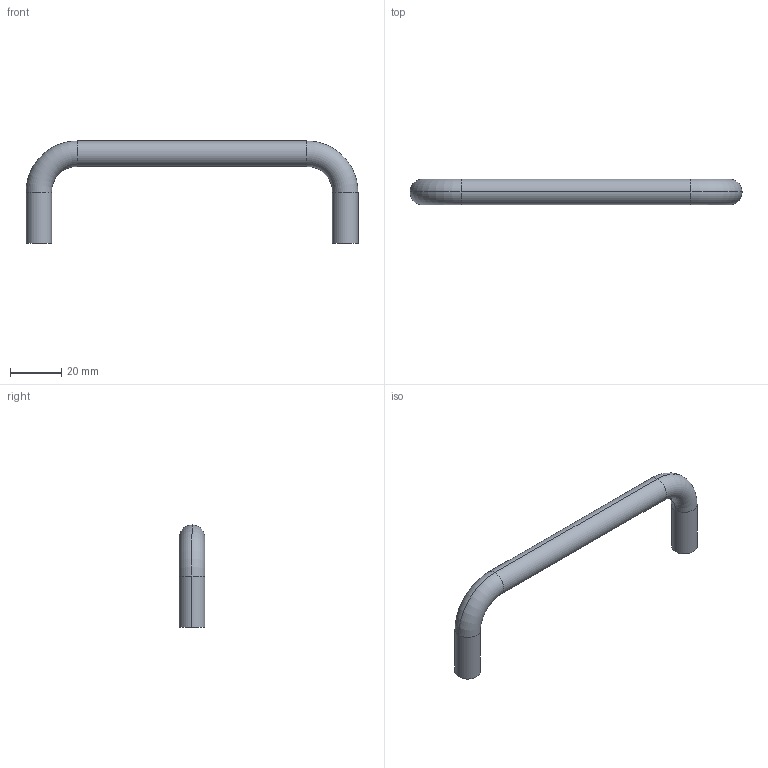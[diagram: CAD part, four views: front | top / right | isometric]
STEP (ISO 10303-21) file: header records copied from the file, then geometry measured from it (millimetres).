
FILE_DESCRIPTION (( 'STEP AP203' ), '1' );
FILE_NAME ('0108HG120ALU.STEP', '2024-09-03T13:09:29', ( 'Windows-Benutzer' ), ( '' ), 'SwSTEP 2.0', 'SolidWorks 2024', '' );
FILE_SCHEMA (( 'CONFIG_CONTROL_DESIGN' ));
Length unit declared in the file: millimetre
Products named in the file (1): 0108HG120ALU
Bounding box: 130 x 10 x 40 mm (x, y, z)
Volume: 13477.1 mm3; surface area: 6135.4 mm2
Topology: 1 solids, 1 shells, 24 faces, 50 edges, 26 vertices
Faces by surface type: cylinder 14, torus 4, cone 4, plane 2
Entity records: 683 total; most frequent: DIRECTION 124, CARTESIAN_POINT 97, ORIENTED_EDGE 92, AXIS2_PLACEMENT_3D 53, EDGE_CURVE 46, CIRCLE 28, VERTEX_POINT 26, EDGE_LOOP 26
